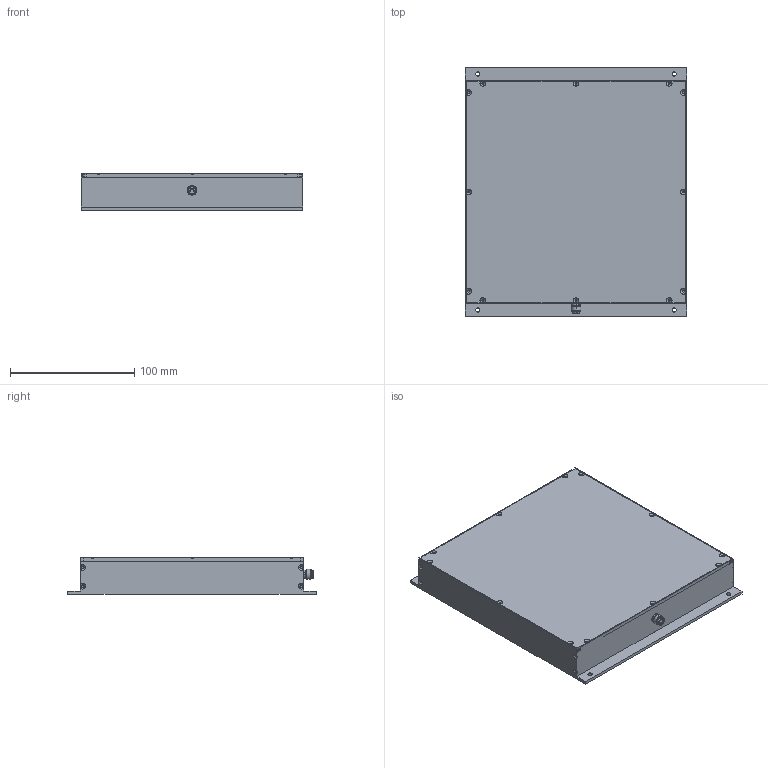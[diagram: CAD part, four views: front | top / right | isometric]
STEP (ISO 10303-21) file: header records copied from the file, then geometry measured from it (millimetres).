
FILE_DESCRIPTION(('STEP AP214'),'1');
FILE_NAME('TL-HL-180 ohne Kollimator.stp','2018-10-05T14:59:17',(' '),(' '),'Spatial InterOp 3D',' ',' ');
FILE_SCHEMA(('AUTOMOTIVE_DESIGN { 1 0 10303 214 1 1 1 1 }'));
Length unit declared in the file: metre
Products named in the file (3): TL-HL-180 ohne Kollimator; Stecker
Assembly tree (2 placements, depth 2):
  TL-HL-180 ohne Kollimator
    TL-HL-180 ohne Kollimator
    Stecker
Bounding box: 178 x 200 x 29.5 mm (x, y, z)
Volume: 250998.3 mm3; surface area: 173735.3 mm2
Topology: 2 solids, 2 shells, 442 faces, 1059 edges, 675 vertices
Faces by surface type: cylinder 226, plane 126, cone 74, bspline 8, torus 4, sphere 4
Entity records: 17584 total; most frequent: CARTESIAN_POINT 3483, DIRECTION 2339, ORIENTED_EDGE 2102, EDGE_CURVE 1051, AXIS2_PLACEMENT_3D 973, VERTEX_POINT 675, CIRCLE 533, EDGE_LOOP 512
